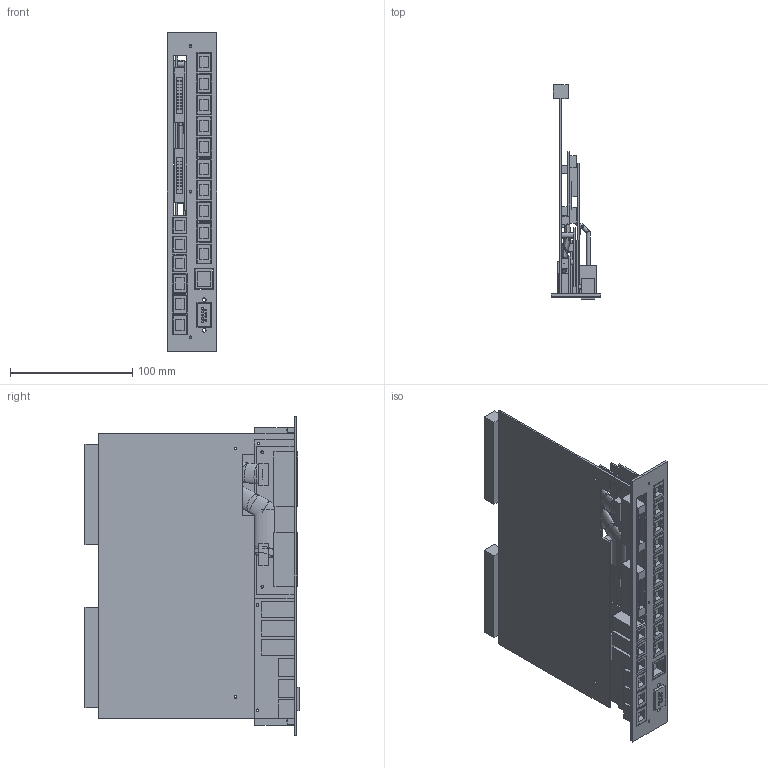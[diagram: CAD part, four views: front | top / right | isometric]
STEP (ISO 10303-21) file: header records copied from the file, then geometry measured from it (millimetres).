
FILE_DESCRIPTION(('FreeCAD Model'),'2;1');
FILE_NAME('Open CASCADE Shape Model','2026-11-22T13:35:08',(''),(''), 'Open CASCADE STEP processor 7.8','FreeCAD','Unknown');
FILE_SCHEMA(('AUTOMOTIVE_DESIGN { 1 0 10303 214 1 1 1 1 }'));
Length unit declared in the file: millimetre
Products named in the file (86): PSCONT master 8 HP - packaging concept; 01 M - carrier; PCB_M; BP-J2; BP-J3; H-PI-parent; H-PO-parent; H-RS-parent; 02 C - controller; PCB_C; U1; U2; U5; J4; J6; J7-mate; J8-mate; J9-mate; J10-mate; 03 R - optical receiver; PCB_R; XR-mate; R1-F06; R1-seat; R2-F06; R2-seat; R3-F06; R3-seat; R4-F06; R4-seat; R5-F06; R5-seat; R6-F06; R6-seat; R7-F06; R7-seat; R8-F06; R8-seat; R9-F06; R9-seat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
Assembly tree (85 placements, depth 3):
  PSCONT master 8 HP - packaging concept
    01 M - carrier
      PCB_M
      BP-J2
      BP-J3
      H-PI-parent
      H-PO-parent
      H-RS-parent
    02 C - controller
      PCB_C
      U1
      U2
      U5
      J4
      J6
      J7-mate
      J8-mate
      J9-mate
      J10-mate
    03 R - optical receiver
      PCB_R
      XR-mate
      R1-F06
      R1-seat
      R2-F06
      R2-seat
      R3-F06
      R3-seat
      R4-F06
      R4-seat
      R5-F06
      R5-seat
      R6-F06
      R6-seat
      R7-F06
      R7-seat
      R8-F06
      R8-seat
      R9-F06
      R9-seat
      R10-F06
      R10-seat
    04 L - optical Tx and timing Rx
      PCB_L
      XL-mate
      S1-SC
      S1-seat
      S2-SC
      S2-seat
      S3-SC
      S3-seat
      T1-F06
      T1-seat
      T2-F06
      T2-seat
      T3-F06
      T3-seat
    05 E - Ethernet
      PCB_E
      XETH-mate
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Bounding box: 40.34 x 174.9 x 260.45 mm (x, y, z)
Volume: 222096.5 mm3; surface area: 214860.7 mm2
Topology: 99 solids, 99 shells, 945 faces, 2122 edges, 1416 vertices
Faces by surface type: plane 843, cylinder 64, bspline 34, sphere 4
Full cylindrical faces by diameter (mm): 1.52 x9, 1.7 x3, 2 x10, 2.1 x10, 2.2 x13, 3 x4, 3.3 x5, 4.7 x10
Entity records: 27584 total; most frequent: CARTESIAN_POINT 5056, DIRECTION 4197, ORIENTED_EDGE 4178, EDGE_CURVE 2089, LINE 1911, VECTOR 1911, VERTEX_POINT 1405, AXIS2_PLACEMENT_3D 1143
